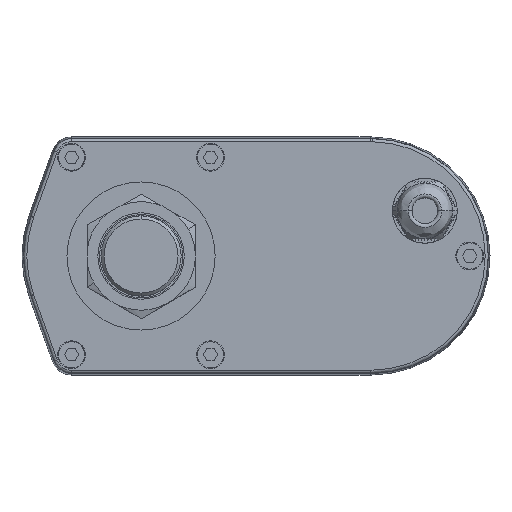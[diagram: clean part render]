
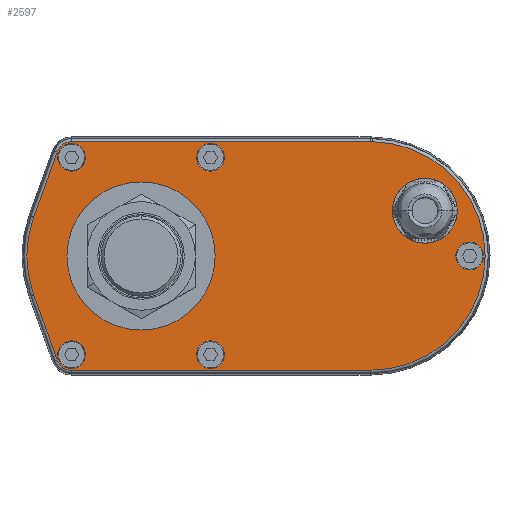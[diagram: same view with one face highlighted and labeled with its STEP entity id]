
A CAD part, left-side view. The second image highlights one B-rep face of the part: STEP entity #2597.
In plain terms, the highlighted planar face has unit normal (-1, 0, 0).
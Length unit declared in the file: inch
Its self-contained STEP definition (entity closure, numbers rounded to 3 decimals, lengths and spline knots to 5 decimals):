
#2597=ADVANCED_FACE('',(#5501,#5502,#5503,#5504,#5505,#5506,#5507,#5508),#5509,.F.);
#5501=FACE_OUTER_BOUND('',#11431,.T.);
#5502=FACE_BOUND('',#11432,.T.);
#5503=FACE_BOUND('',#11433,.T.);
#5504=FACE_BOUND('',#11434,.T.);
#5505=FACE_BOUND('',#11435,.T.);
#5506=FACE_BOUND('',#11436,.T.);
#5507=FACE_BOUND('',#11437,.T.);
#5508=FACE_BOUND('',#11438,.T.);
#5509=PLANE('',#11439);
#11431=EDGE_LOOP('',(#19600,#19601,#19602,#19603,#19604,#19605,#19606,#19607,#19608));
#11432=EDGE_LOOP('',(#19609,#19610));
#11433=EDGE_LOOP('',(#19611,#19612));
#11434=EDGE_LOOP('',(#19613,#19614));
#11435=EDGE_LOOP('',(#19615,#19616));
#11436=EDGE_LOOP('',(#19617,#19618));
#11437=EDGE_LOOP('',(#19619,#19620));
#11438=EDGE_LOOP('',(#19621,#19622));
#11439=AXIS2_PLACEMENT_3D('',#19623,#19624,#19625);
#19600=ORIENTED_EDGE('',*,*,#24654,.T.);
#19601=ORIENTED_EDGE('',*,*,#25786,.T.);
#19602=ORIENTED_EDGE('',*,*,#25672,.T.);
#19603=ORIENTED_EDGE('',*,*,#23985,.T.);
#19604=ORIENTED_EDGE('',*,*,#25865,.T.);
#19605=ORIENTED_EDGE('',*,*,#25866,.T.);
#19606=ORIENTED_EDGE('',*,*,#25867,.T.);
#19607=ORIENTED_EDGE('',*,*,#25868,.T.);
#19608=ORIENTED_EDGE('',*,*,#25769,.T.);
#19609=ORIENTED_EDGE('',*,*,#25587,.F.);
#19610=ORIENTED_EDGE('',*,*,#25869,.F.);
#19611=ORIENTED_EDGE('',*,*,#23238,.F.);
#19612=ORIENTED_EDGE('',*,*,#24258,.F.);
#19613=ORIENTED_EDGE('',*,*,#25525,.F.);
#19614=ORIENTED_EDGE('',*,*,#25870,.F.);
#19615=ORIENTED_EDGE('',*,*,#23542,.F.);
#19616=ORIENTED_EDGE('',*,*,#25871,.F.);
#19617=ORIENTED_EDGE('',*,*,#23121,.F.);
#19618=ORIENTED_EDGE('',*,*,#25145,.F.);
#19619=ORIENTED_EDGE('',*,*,#25156,.F.);
#19620=ORIENTED_EDGE('',*,*,#23101,.F.);
#19621=ORIENTED_EDGE('',*,*,#25872,.F.);
#19622=ORIENTED_EDGE('',*,*,#23152,.F.);
#19623=CARTESIAN_POINT('',(-3.85039,0.,0.));
#19624=DIRECTION('',(1.0,0.0,0.0));
#19625=DIRECTION('',(0.0,1.0,-0.0));
#23101=EDGE_CURVE('',#26807,#26802,#26809,.T.);
#23121=EDGE_CURVE('',#26844,#26831,#26846,.T.);
#23152=EDGE_CURVE('',#26898,#26893,#26900,.T.);
#23238=EDGE_CURVE('',#27059,#27046,#27061,.T.);
#23542=EDGE_CURVE('',#27599,#27594,#27601,.T.);
#23985=EDGE_CURVE('',#28326,#28330,#28332,.T.);
#24258=EDGE_CURVE('',#27046,#27059,#28764,.T.);
#24654=EDGE_CURVE('',#29392,#29397,#29399,.T.);
#25145=EDGE_CURVE('',#26831,#26844,#30103,.T.);
#25156=EDGE_CURVE('',#26802,#26807,#30117,.T.);
#25525=EDGE_CURVE('',#30607,#30602,#30609,.T.);
#25587=EDGE_CURVE('',#30692,#30690,#30694,.T.);
#25672=EDGE_CURVE('',#30801,#28326,#30803,.T.);
#25769=EDGE_CURVE('',#30913,#29392,#30915,.T.);
#25786=EDGE_CURVE('',#29397,#30801,#30935,.T.);
#25865=EDGE_CURVE('',#28330,#31026,#31027,.T.);
#25866=EDGE_CURVE('',#31026,#31028,#31029,.T.);
#25867=EDGE_CURVE('',#31028,#31030,#31031,.T.);
#25868=EDGE_CURVE('',#31030,#30913,#31032,.T.);
#25869=EDGE_CURVE('',#30690,#30692,#31033,.T.);
#25870=EDGE_CURVE('',#30602,#30607,#31034,.T.);
#25871=EDGE_CURVE('',#27594,#27599,#31035,.T.);
#25872=EDGE_CURVE('',#26893,#26898,#31036,.T.);
#26802=VERTEX_POINT('',#32208);
#26807=VERTEX_POINT('',#32214);
#26809=CIRCLE('',#32217,0.17717);
#26831=VERTEX_POINT('',#32241);
#26844=VERTEX_POINT('',#32257);
#26846=CIRCLE('',#32260,0.17717);
#26893=VERTEX_POINT('',#32336);
#26898=VERTEX_POINT('',#32342);
#26900=CIRCLE('',#32345,0.24606);
#27046=VERTEX_POINT('',#32589);
#27059=VERTEX_POINT('',#32605);
#27061=CIRCLE('',#32608,0.17717);
#27594=VERTEX_POINT('',#33458);
#27599=VERTEX_POINT('',#33464);
#27601=CIRCLE('',#33467,0.17717);
#28326=VERTEX_POINT('',#34624);
#28330=VERTEX_POINT('',#34628);
#28332=CIRCLE('',#34630,0.19753);
#28764=CIRCLE('',#35267,0.17717);
#29392=VERTEX_POINT('',#36519);
#29397=VERTEX_POINT('',#36525);
#29399=LINE('',#36527,#36528);
#30103=CIRCLE('',#37698,0.17717);
#30117=CIRCLE('',#37714,0.17717);
#30602=VERTEX_POINT('',#38571);
#30607=VERTEX_POINT('',#38577);
#30609=CIRCLE('',#38580,0.17717);
#30690=VERTEX_POINT('',#38792);
#30692=VERTEX_POINT('',#38795);
#30694=CIRCLE('',#38798,0.94488);
#30801=VERTEX_POINT('',#38987);
#30803=LINE('',#38989,#38990);
#30913=VERTEX_POINT('',#39178);
#30915=CIRCLE('',#39180,0.19753);
#30935=CIRCLE('',#39207,1.45737);
#31026=VERTEX_POINT('',#39349);
#31027=LINE('',#39350,#39351);
#31028=VERTEX_POINT('',#39352);
#31029=CIRCLE('',#39353,1.45737);
#31030=VERTEX_POINT('',#39354);
#31031=CIRCLE('',#39355,1.45737);
#31032=LINE('',#39356,#39357);
#31033=CIRCLE('',#39358,0.94488);
#31034=CIRCLE('',#39359,0.17717);
#31035=CIRCLE('',#39360,0.17717);
#31036=CIRCLE('',#39361,0.24606);
#32208=CARTESIAN_POINT('',(-3.85039,-4.19291,-0.17717));
#32214=CARTESIAN_POINT('',(-3.85039,-4.19291,0.17717));
#32217=AXIS2_PLACEMENT_3D('',#40780,#40781,#40782);
#32241=CARTESIAN_POINT('',(-3.85039,0.88583,-1.08268));
#32257=CARTESIAN_POINT('',(-3.85039,0.88583,-1.43701));
#32260=AXIS2_PLACEMENT_3D('',#40819,#40820,#40821);
#32336=CARTESIAN_POINT('',(-3.85039,-3.6207,0.33093));
#32342=CARTESIAN_POINT('',(-3.85039,-3.6207,0.82305));
#32345=AXIS2_PLACEMENT_3D('',#40855,#40856,#40857);
#32589=CARTESIAN_POINT('',(-3.85039,0.88583,1.43701));
#32605=CARTESIAN_POINT('',(-3.85039,0.88583,1.08268));
#32608=AXIS2_PLACEMENT_3D('',#41007,#41008,#41009);
#33458=CARTESIAN_POINT('',(-3.85039,-0.88583,-1.08268));
#33464=CARTESIAN_POINT('',(-3.85039,-0.88583,-1.43701));
#33467=AXIS2_PLACEMENT_3D('',#41358,#41359,#41360);
#34624=CARTESIAN_POINT('',(-3.85039,1.07171,-1.32668));
#34628=CARTESIAN_POINT('',(-3.85039,0.88583,-1.45737));
#34630=AXIS2_PLACEMENT_3D('',#41989,#41990,#41991);
#35267=AXIS2_PLACEMENT_3D('',#42378,#42379,#42380);
#36519=CARTESIAN_POINT('',(-3.85039,1.07171,1.32668));
#36525=CARTESIAN_POINT('',(-3.85039,1.37142,0.49309));
#36527=CARTESIAN_POINT('',(-3.85039,1.07171,1.32668));
#36528=VECTOR('',#42834,0.88583);
#37698=AXIS2_PLACEMENT_3D('',#43502,#43503,#43504);
#37714=AXIS2_PLACEMENT_3D('',#43519,#43520,#43521);
#38571=CARTESIAN_POINT('',(-3.85039,-0.88583,1.43701));
#38577=CARTESIAN_POINT('',(-3.85039,-0.88583,1.08268));
#38580=AXIS2_PLACEMENT_3D('',#43942,#43943,#43944);
#38792=CARTESIAN_POINT('',(-3.85039,0.,0.94488));
#38795=CARTESIAN_POINT('',(-3.85039,0.,-0.94488));
#38798=AXIS2_PLACEMENT_3D('',#43992,#43993,#43994);
#38987=CARTESIAN_POINT('',(-3.85039,1.37142,-0.49309));
#38989=CARTESIAN_POINT('',(-3.85039,1.37142,-0.49309));
#38990=VECTOR('',#44083,0.88583);
#39178=CARTESIAN_POINT('',(-3.85039,0.88583,1.45737));
#39180=AXIS2_PLACEMENT_3D('',#44211,#44212,#44213);
#39207=AXIS2_PLACEMENT_3D('',#44235,#44236,#44237);
#39349=CARTESIAN_POINT('',(-3.85039,-2.93307,-1.45737));
#39350=CARTESIAN_POINT('',(-3.85039,0.88583,-1.45737));
#39351=VECTOR('',#44318,3.8189);
#39352=CARTESIAN_POINT('',(-3.85039,-2.94857,1.45729));
#39353=AXIS2_PLACEMENT_3D('',#44319,#44320,#44321);
#39354=CARTESIAN_POINT('',(-3.85039,-2.93307,1.45737));
#39355=AXIS2_PLACEMENT_3D('',#44322,#44323,#44324);
#39356=CARTESIAN_POINT('',(-3.85039,-2.93307,1.45737));
#39357=VECTOR('',#44325,3.8189);
#39358=AXIS2_PLACEMENT_3D('',#44326,#44327,#44328);
#39359=AXIS2_PLACEMENT_3D('',#44329,#44330,#44331);
#39360=AXIS2_PLACEMENT_3D('',#44332,#44333,#44334);
#39361=AXIS2_PLACEMENT_3D('',#44335,#44336,#44337);
#40780=CARTESIAN_POINT('',(-3.85039,-4.19291,0.));
#40781=DIRECTION('',(-1.0,0.0,0.0));
#40782=DIRECTION('',(0.0,0.0,1.0));
#40819=CARTESIAN_POINT('',(-3.85039,0.88583,-1.25984));
#40820=DIRECTION('',(-1.0,0.0,0.0));
#40821=DIRECTION('',(0.0,0.0,-1.0));
#40855=CARTESIAN_POINT('',(-3.85039,-3.6207,0.57699));
#40856=DIRECTION('',(-1.0,0.0,0.0));
#40857=DIRECTION('',(0.0,0.0,1.0));
#41007=CARTESIAN_POINT('',(-3.85039,0.88583,1.25984));
#41008=DIRECTION('',(-1.0,0.0,0.0));
#41009=DIRECTION('',(0.0,0.0,-1.0));
#41358=CARTESIAN_POINT('',(-3.85039,-0.88583,-1.25984));
#41359=DIRECTION('',(-1.0,0.0,0.0));
#41360=DIRECTION('',(0.0,0.0,-1.0));
#41989=CARTESIAN_POINT('',(-3.85039,0.88583,-1.25984));
#41990=DIRECTION('',(-1.0,0.0,0.0));
#41991=DIRECTION('',(0.0,0.941,-0.338));
#42378=CARTESIAN_POINT('',(-3.85039,0.88583,1.25984));
#42379=DIRECTION('',(-1.0,0.0,0.0));
#42380=DIRECTION('',(0.0,0.0,1.0));
#42834=DIRECTION('',(0.0,0.338,-0.941));
#43502=CARTESIAN_POINT('',(-3.85039,0.88583,-1.25984));
#43503=DIRECTION('',(-1.0,0.0,0.0));
#43504=DIRECTION('',(0.0,0.0,1.0));
#43519=CARTESIAN_POINT('',(-3.85039,-4.19291,0.));
#43520=DIRECTION('',(-1.0,0.0,0.0));
#43521=DIRECTION('',(0.0,0.0,-1.0));
#43942=CARTESIAN_POINT('',(-3.85039,-0.88583,1.25984));
#43943=DIRECTION('',(-1.0,0.0,0.0));
#43944=DIRECTION('',(0.0,0.0,-1.0));
#43992=CARTESIAN_POINT('',(-3.85039,0.,0.));
#43993=DIRECTION('',(-1.0,0.0,0.0));
#43994=DIRECTION('',(0.0,0.0,-1.0));
#44083=DIRECTION('',(0.0,-0.338,-0.941));
#44211=CARTESIAN_POINT('',(-3.85039,0.88583,1.25984));
#44212=DIRECTION('',(-1.0,0.0,0.0));
#44213=DIRECTION('',(0.0,0.0,1.0));
#44235=CARTESIAN_POINT('',(-3.85039,0.,0.));
#44236=DIRECTION('',(-1.0,0.0,0.0));
#44237=DIRECTION('',(0.0,0.941,0.338));
#44318=DIRECTION('',(0.0,-1.0,0.0));
#44319=CARTESIAN_POINT('',(-3.85039,-2.93307,0.));
#44320=DIRECTION('',(-1.0,0.0,0.0));
#44321=DIRECTION('',(0.0,0.0,-1.0));
#44322=CARTESIAN_POINT('',(-3.85039,-2.93307,0.));
#44323=DIRECTION('',(-1.0,0.0,0.0));
#44324=DIRECTION('',(0.0,0.0,-1.0));
#44325=DIRECTION('',(0.0,1.0,0.0));
#44326=CARTESIAN_POINT('',(-3.85039,0.,0.));
#44327=DIRECTION('',(-1.0,0.0,0.0));
#44328=DIRECTION('',(0.0,0.0,1.0));
#44329=CARTESIAN_POINT('',(-3.85039,-0.88583,1.25984));
#44330=DIRECTION('',(-1.0,0.0,0.0));
#44331=DIRECTION('',(0.0,0.0,1.0));
#44332=CARTESIAN_POINT('',(-3.85039,-0.88583,-1.25984));
#44333=DIRECTION('',(-1.0,0.0,0.0));
#44334=DIRECTION('',(0.0,0.0,1.0));
#44335=CARTESIAN_POINT('',(-3.85039,-3.6207,0.57699));
#44336=DIRECTION('',(-1.0,0.0,0.0));
#44337=DIRECTION('',(0.0,0.0,-1.0));
